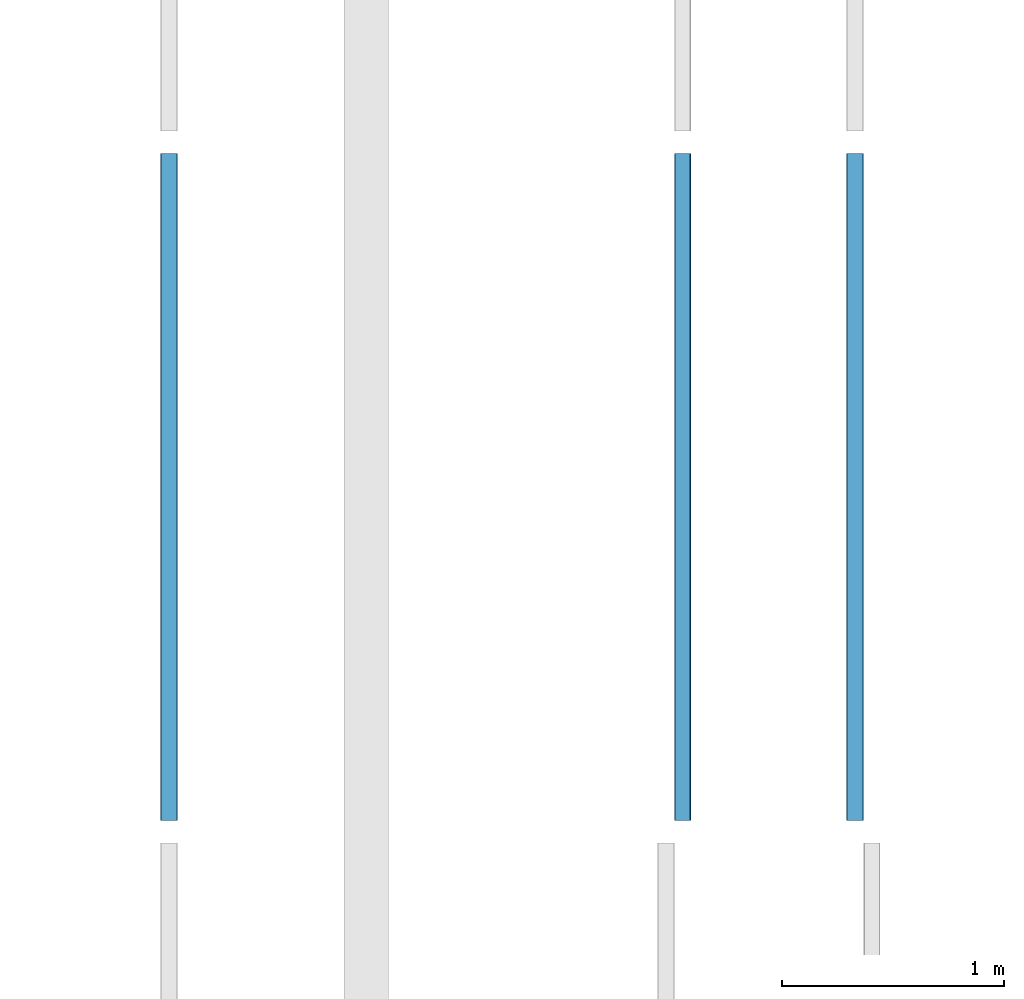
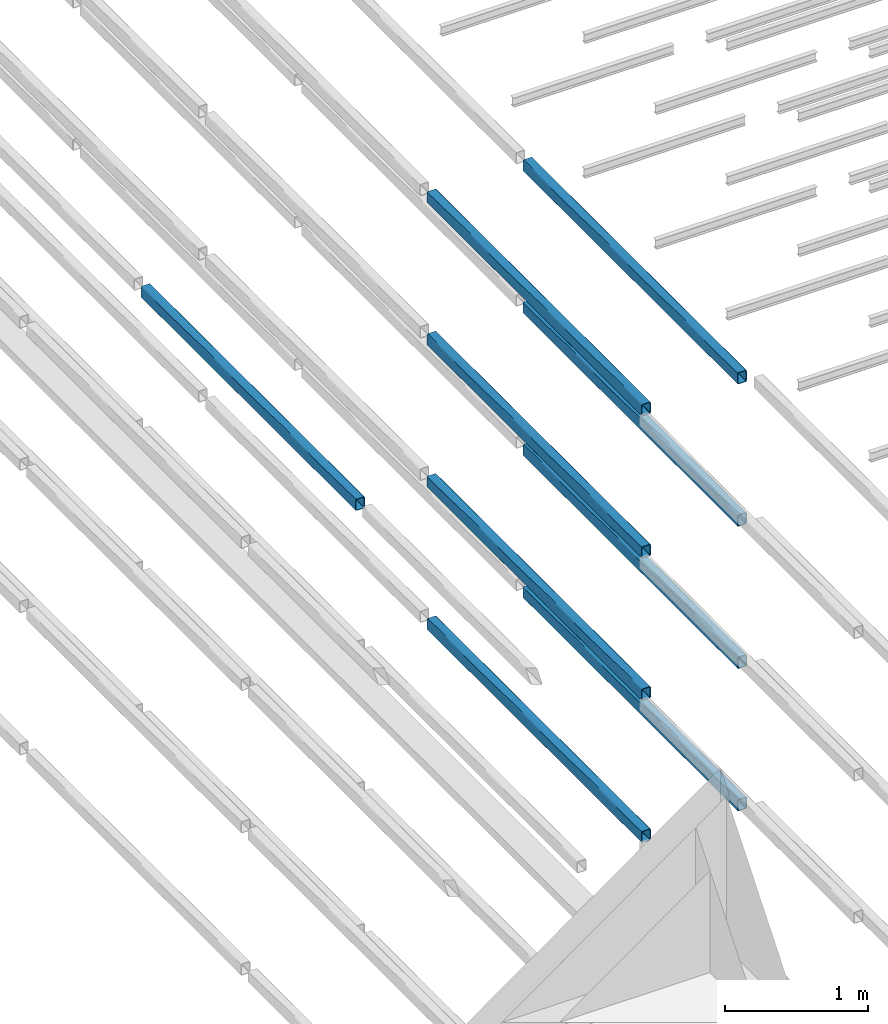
# One storey, part 35 of 290: 9 beams.
"""IFC2X3 building model written with IfcOpenShell, lengths in metres."""

from ifc_helpers import new_model, entity, si_unit, converted_unit, derived_unit, direction, frame, frame_2d, origin, place, context, subcontext, project, spatial, polyline, circle_curve, parameter, trimmed, segment, composite_curve, outline, extrude, material, type_object, element, save


model = new_model("IFC2X3")

# Units and contexts
model_context = context("Model", 3, precision=1e-05, world=origin(), true_north=direction((6.12303176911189e-17, 1.0)))
body_context = subcontext(model_context, "Body", "Model", "MODEL_VIEW")
ifc_project = project(units=[si_unit("LENGTHUNIT", "METRE"), si_unit("AREAUNIT", "SQUARE_METRE"), si_unit("VOLUMEUNIT", "CUBIC_METRE"), converted_unit("PLANEANGLEUNIT", "DEGREE", entity("IfcRatioMeasure", 0.0174532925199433), si_unit("PLANEANGLEUNIT", "RADIAN"), dimensions=[0, 0, 0, 0, 0, 0, 0]), si_unit("MASSUNIT", "GRAM", prefix="KILO"), derived_unit("MASSDENSITYUNIT", [(si_unit("MASSUNIT", "GRAM", prefix="KILO"), 1), (si_unit("LENGTHUNIT", "METRE"), -3)]), derived_unit("MOMENTOFINERTIAUNIT", [(si_unit("LENGTHUNIT", "METRE"), 4)]), si_unit("TIMEUNIT", "SECOND"), si_unit("FREQUENCYUNIT", "HERTZ"), si_unit("THERMODYNAMICTEMPERATUREUNIT", "DEGREE_CELSIUS"), derived_unit("THERMALTRANSMITTANCEUNIT", [(si_unit("MASSUNIT", "GRAM", prefix="KILO"), 1), (si_unit("THERMODYNAMICTEMPERATUREUNIT", "KELVIN"), -1), (si_unit("TIMEUNIT", "SECOND"), -3)]), derived_unit("VOLUMETRICFLOWRATEUNIT", [(si_unit("LENGTHUNIT", "METRE"), 3), (si_unit("TIMEUNIT", "SECOND"), -1)]), si_unit("ELECTRICCURRENTUNIT", "AMPERE"), si_unit("ELECTRICVOLTAGEUNIT", "VOLT"), si_unit("POWERUNIT", "WATT"), si_unit("FORCEUNIT", "NEWTON", prefix="KILO"), si_unit("ILLUMINANCEUNIT", "LUX"), si_unit("LUMINOUSFLUXUNIT", "LUMEN"), si_unit("LUMINOUSINTENSITYUNIT", "CANDELA"), derived_unit("USERDEFINED", [(si_unit("MASSUNIT", "GRAM", prefix="KILO"), -1), (si_unit("LENGTHUNIT", "METRE"), -2), (si_unit("TIMEUNIT", "SECOND"), 3), (si_unit("LUMINOUSFLUXUNIT", "LUMEN"), 1)]), derived_unit("LINEARVELOCITYUNIT", [(si_unit("LENGTHUNIT", "METRE"), 1), (si_unit("TIMEUNIT", "SECOND"), -1)]), si_unit("PRESSUREUNIT", "PASCAL"), derived_unit("USERDEFINED", [(si_unit("LENGTHUNIT", "METRE"), -2), (si_unit("MASSUNIT", "GRAM", prefix="KILO"), 1), (si_unit("TIMEUNIT", "SECOND"), -2)]), derived_unit("LINEARFORCEUNIT", [(si_unit("MASSUNIT", "GRAM", prefix="KILO"), 1), (si_unit("LENGTHUNIT", "METRE"), 1), (si_unit("TIMEUNIT", "SECOND"), -2), (si_unit("LENGTHUNIT", "METRE"), -1)]), derived_unit("PLANARFORCEUNIT", [(si_unit("MASSUNIT", "GRAM", prefix="KILO"), 1), (si_unit("LENGTHUNIT", "METRE"), 1), (si_unit("TIMEUNIT", "SECOND"), -2), (si_unit("LENGTHUNIT", "METRE"), -2)])], contexts=[model_context])

# Site, building, storey
site_placement = place(None, origin())
site = spatial("IfcSite", under=ifc_project, at=site_placement, Name="Default", CompositionType="ELEMENT")
building_placement = place(site_placement, origin())
building = spatial("IfcBuilding", under=site, at=building_placement, CompositionType="ELEMENT")
storey_placement = place(building_placement, frame((0.0, 0.0, 4.0)))
storey = spatial("IfcBuildingStorey", under=building, at=storey_placement, Name="01_OG", CompositionType="ELEMENT", Elevation=4.0)

# Beams
ifc_material = material(Name="Metall - Baustahl S235 blau")
beam_type = type_object("IfcBeamType", Name="RHS Träger (EN 10219-2):RHS 100 x 75 x 5", PredefinedType="NOTDEFINED")
beam_1_placement = place(storey_placement, frame((-178.465111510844, 27.148088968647, 2.445), z_axis=(0.0, 0.0, 1.0), x_axis=(0.0, 1.0, 0.0)))
element("IfcBeam", 1, at=beam_1_placement, inside=storey, type_object=beam_type, material=ifc_material, Name="RHS Träger (EN 10219-2):RHS 100 x 75 x 5", ObjectType="RHS Träger (EN 10219-2):RHS 100 x 75 x 5", context=body_context, shape_type="SweptSolid", body=[
    extrude(outline(composite_curve([segment(polyline([(-0.0399999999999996, -0.0374999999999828), (0.0399999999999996, -0.0374999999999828)]), True, "CONTINUOUS"), segment(trimmed(circle_curve(frame_2d((0.0399999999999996, -0.0274999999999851), x_axis=(0.0, 1.0)), 0.01), [parameter(180.0)], [parameter(270.0)], True, "PARAMETER"), True, "CONTINUOUS"), segment(polyline([(0.0500000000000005, -0.0274999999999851), (0.0500000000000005, 0.0274999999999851)]), True, "CONTINUOUS"), segment(trimmed(circle_curve(frame_2d((0.0399999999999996, 0.0274999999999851), x_axis=(0.0, 1.0)), 0.01), [parameter(270.0)], [parameter(4.07110999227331e-13)], True, "PARAMETER"), True, "CONTINUOUS"), segment(polyline([(0.0399999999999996, 0.0375000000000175), (-0.0399999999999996, 0.0375000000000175)]), True, "CONTINUOUS"), segment(trimmed(circle_curve(frame_2d((-0.0399999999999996, 0.0274999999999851), x_axis=(0.0, 1.0)), 0.01), [parameter(360.0)], [parameter(90.0000000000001)], True, "PARAMETER"), True, "CONTINUOUS"), segment(polyline([(-0.0499999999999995, 0.0274999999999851), (-0.0499999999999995, -0.0274999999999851)]), True, "CONTINUOUS"), segment(trimmed(circle_curve(frame_2d((-0.0399999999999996, -0.0274999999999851), x_axis=(0.0, 1.0)), 0.01), [parameter(90.0000000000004)], [parameter(180.0)], True, "PARAMETER"), True, "CONTINUOUS")], self_intersect=False), holes=[composite_curve([segment(trimmed(circle_curve(frame_2d((-0.0400000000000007, 0.0274999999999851), x_axis=(0.0, 1.0)), 0.005), [parameter(360.0)], [parameter(89.9999999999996)], True, "PARAMETER"), False, "CONTINUOUS"), segment(polyline([(-0.0400000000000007, 0.0325000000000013), (0.0399999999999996, 0.0325000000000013)]), True, "CONTINUOUS"), segment(trimmed(circle_curve(frame_2d((0.0399999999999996, 0.0274999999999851), x_axis=(0.0, 1.0)), 0.005), [parameter(270.0)], [parameter(0.0)], True, "PARAMETER"), False, "CONTINUOUS"), segment(polyline([(0.0449999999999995, 0.0274999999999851), (0.0449999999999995, -0.0274999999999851)]), True, "CONTINUOUS"), segment(trimmed(circle_curve(frame_2d((0.0399999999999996, -0.0274999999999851), x_axis=(0.0, 1.0)), 0.005), [parameter(180.0)], [parameter(269.999999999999)], True, "PARAMETER"), False, "CONTINUOUS"), segment(polyline([(0.0399999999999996, -0.0325000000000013), (-0.0400000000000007, -0.0325000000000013)]), True, "CONTINUOUS"), segment(trimmed(circle_curve(frame_2d((-0.0400000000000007, -0.0274999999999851), x_axis=(0.0, 1.0)), 0.005), [parameter(90.0000000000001)], [parameter(180.0)], True, "PARAMETER"), False, "CONTINUOUS"), segment(polyline([(-0.0450000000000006, -0.0274999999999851), (-0.0450000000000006, 0.0274999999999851)]), True, "CONTINUOUS")], self_intersect=False)]), frame((9.99999999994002e-05, -0.0375000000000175, -0.0500000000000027), z_axis=(1.0, 0.0, 0.0), x_axis=(0.0, 0.0, -1.0)), (0.0, 0.0, 1.0), 2.9998),
])
beam_2_placement = place(storey_placement, frame((-175.305111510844, 27.148088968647, -1.2), z_axis=(0.0, 0.0, 1.0), x_axis=(0.0, 1.0, 0.0)))
element("IfcBeam", 2, at=beam_2_placement, inside=storey, type_object=beam_type, material=ifc_material, Name="RHS Träger (EN 10219-2):RHS 100 x 75 x 5", ObjectType="RHS Träger (EN 10219-2):RHS 100 x 75 x 5", context=body_context, shape_type="SweptSolid", body=[
    extrude(outline(composite_curve([segment(trimmed(circle_curve(frame_2d((-0.0274999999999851, -0.0400000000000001), x_axis=(1.0, 0.0)), 0.01), [parameter(180.0)], [parameter(270.0)], True, "PARAMETER"), True, "CONTINUOUS"), segment(polyline([(-0.0274999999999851, -0.05), (0.0274999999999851, -0.05)]), True, "CONTINUOUS"), segment(trimmed(circle_curve(frame_2d((0.0274999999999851, -0.0400000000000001), x_axis=(1.0, 0.0)), 0.01), [parameter(270.0)], [parameter(5.08888749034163e-14)], True, "PARAMETER"), True, "CONTINUOUS"), segment(polyline([(0.0375000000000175, -0.0400000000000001), (0.0375000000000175, 0.0400000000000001)]), True, "CONTINUOUS"), segment(trimmed(circle_curve(frame_2d((0.0274999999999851, 0.0400000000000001), x_axis=(1.0, 0.0)), 0.01), [parameter(360.0)], [parameter(89.9999999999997)], True, "PARAMETER"), True, "CONTINUOUS"), segment(polyline([(0.0274999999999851, 0.05), (-0.0274999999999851, 0.05)]), True, "CONTINUOUS"), segment(trimmed(circle_curve(frame_2d((-0.0274999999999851, 0.0400000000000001), x_axis=(1.0, 0.0)), 0.01), [parameter(90.0000000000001)], [parameter(180.0)], True, "PARAMETER"), True, "CONTINUOUS"), segment(polyline([(-0.0374999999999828, 0.0400000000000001), (-0.0374999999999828, -0.0400000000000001)]), True, "CONTINUOUS")], self_intersect=False), holes=[composite_curve([segment(polyline([(0.0274999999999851, -0.0450000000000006), (-0.0274999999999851, -0.0450000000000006)]), True, "CONTINUOUS"), segment(trimmed(circle_curve(frame_2d((-0.0274999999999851, -0.0400000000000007), x_axis=(1.0, 0.0)), 0.005), [parameter(180.0)], [parameter(270.0)], True, "PARAMETER"), False, "CONTINUOUS"), segment(polyline([(-0.0325000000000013, -0.0400000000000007), (-0.0325000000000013, 0.039999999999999)]), True, "CONTINUOUS"), segment(trimmed(circle_curve(frame_2d((-0.0274999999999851, 0.039999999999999), x_axis=(1.0, 0.0)), 0.005), [parameter(90.0000000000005)], [parameter(180.0)], True, "PARAMETER"), False, "CONTINUOUS"), segment(polyline([(-0.0274999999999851, 0.044999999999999), (0.0274999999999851, 0.044999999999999)]), True, "CONTINUOUS"), segment(trimmed(circle_curve(frame_2d((0.0274999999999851, 0.039999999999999), x_axis=(1.0, 0.0)), 0.005), [parameter(0.0)], [parameter(90.0000000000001)], True, "PARAMETER"), False, "CONTINUOUS"), segment(polyline([(0.0325000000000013, 0.039999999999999), (0.0325000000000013, -0.0400000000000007)]), True, "CONTINUOUS"), segment(trimmed(circle_curve(frame_2d((0.0274999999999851, -0.0400000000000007), x_axis=(1.0, 0.0)), 0.005), [parameter(270.0)], [parameter(4.07110999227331e-13)], True, "PARAMETER"), False, "CONTINUOUS")], self_intersect=False)]), frame((9.99999999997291e-05, 0.0375000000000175, -0.0500000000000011), z_axis=(1.0, 0.0, 0.0), x_axis=(0.0, -1.0, 0.0)), (0.0, 0.0, 1.0), 2.9998),
])
beam_3_placement = place(storey_placement, frame((-175.305111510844, 27.148088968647, 0.0150000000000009), z_axis=(0.0, 0.0, 1.0), x_axis=(0.0, 1.0, 0.0)))
element("IfcBeam", 3, at=beam_3_placement, inside=storey, type_object=beam_type, material=ifc_material, Name="RHS Träger (EN 10219-2):RHS 100 x 75 x 5", ObjectType="RHS Träger (EN 10219-2):RHS 100 x 75 x 5", context=body_context, shape_type="SweptSolid", body=[
    extrude(outline(composite_curve([segment(trimmed(circle_curve(frame_2d((-0.0274999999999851, -0.0400000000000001), x_axis=(1.0, 0.0)), 0.01), [parameter(180.0)], [parameter(270.0)], True, "PARAMETER"), True, "CONTINUOUS"), segment(polyline([(-0.0274999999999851, -0.05), (0.0274999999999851, -0.05)]), True, "CONTINUOUS"), segment(trimmed(circle_curve(frame_2d((0.0274999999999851, -0.0400000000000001), x_axis=(1.0, 0.0)), 0.01), [parameter(270.0)], [parameter(5.08888749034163e-14)], True, "PARAMETER"), True, "CONTINUOUS"), segment(polyline([(0.0375000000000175, -0.0400000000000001), (0.0375000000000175, 0.0400000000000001)]), True, "CONTINUOUS"), segment(trimmed(circle_curve(frame_2d((0.0274999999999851, 0.0400000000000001), x_axis=(1.0, 0.0)), 0.01), [parameter(360.0)], [parameter(89.9999999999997)], True, "PARAMETER"), True, "CONTINUOUS"), segment(polyline([(0.0274999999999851, 0.05), (-0.0274999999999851, 0.05)]), True, "CONTINUOUS"), segment(trimmed(circle_curve(frame_2d((-0.0274999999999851, 0.0400000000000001), x_axis=(1.0, 0.0)), 0.01), [parameter(90.0000000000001)], [parameter(180.0)], True, "PARAMETER"), True, "CONTINUOUS"), segment(polyline([(-0.0374999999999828, 0.0400000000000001), (-0.0374999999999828, -0.0400000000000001)]), True, "CONTINUOUS")], self_intersect=False), holes=[composite_curve([segment(polyline([(0.0274999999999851, -0.0450000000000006), (-0.0274999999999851, -0.0450000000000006)]), True, "CONTINUOUS"), segment(trimmed(circle_curve(frame_2d((-0.0274999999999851, -0.0400000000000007), x_axis=(1.0, 0.0)), 0.005), [parameter(180.0)], [parameter(270.0)], True, "PARAMETER"), False, "CONTINUOUS"), segment(polyline([(-0.0325000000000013, -0.0400000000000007), (-0.0325000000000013, 0.039999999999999)]), True, "CONTINUOUS"), segment(trimmed(circle_curve(frame_2d((-0.0274999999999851, 0.039999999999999), x_axis=(1.0, 0.0)), 0.005), [parameter(90.0000000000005)], [parameter(180.0)], True, "PARAMETER"), False, "CONTINUOUS"), segment(polyline([(-0.0274999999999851, 0.044999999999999), (0.0274999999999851, 0.044999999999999)]), True, "CONTINUOUS"), segment(trimmed(circle_curve(frame_2d((0.0274999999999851, 0.039999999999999), x_axis=(1.0, 0.0)), 0.005), [parameter(0.0)], [parameter(90.0000000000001)], True, "PARAMETER"), False, "CONTINUOUS"), segment(polyline([(0.0325000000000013, 0.039999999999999), (0.0325000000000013, -0.0400000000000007)]), True, "CONTINUOUS"), segment(trimmed(circle_curve(frame_2d((0.0274999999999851, -0.0400000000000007), x_axis=(1.0, 0.0)), 0.005), [parameter(270.0)], [parameter(4.07110999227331e-13)], True, "PARAMETER"), False, "CONTINUOUS")], self_intersect=False)]), frame((9.99999999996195e-05, 0.0375000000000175, -0.0500000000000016), z_axis=(1.0, 0.0, 0.0), x_axis=(0.0, -1.0, 0.0)), (0.0, 0.0, 1.0), 2.9998),
])
beam_4_placement = place(storey_placement, frame((-175.305111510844, 27.148088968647, 1.23), z_axis=(0.0, 0.0, 1.0), x_axis=(0.0, 1.0, 0.0)))
element("IfcBeam", 4, at=beam_4_placement, inside=storey, type_object=beam_type, material=ifc_material, Name="RHS Träger (EN 10219-2):RHS 100 x 75 x 5", ObjectType="RHS Träger (EN 10219-2):RHS 100 x 75 x 5", context=body_context, shape_type="SweptSolid", body=[
    extrude(outline(composite_curve([segment(trimmed(circle_curve(frame_2d((-0.0274999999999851, -0.0399999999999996), x_axis=(1.0, 0.0)), 0.01), [parameter(180.0)], [parameter(270.0)], True, "PARAMETER"), True, "CONTINUOUS"), segment(polyline([(-0.0274999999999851, -0.0499999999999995), (0.0274999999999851, -0.0499999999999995)]), True, "CONTINUOUS"), segment(trimmed(circle_curve(frame_2d((0.0274999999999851, -0.0399999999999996), x_axis=(1.0, 0.0)), 0.01), [parameter(270.0)], [parameter(5.08888749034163e-14)], True, "PARAMETER"), True, "CONTINUOUS"), segment(polyline([(0.0375000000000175, -0.0399999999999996), (0.0375000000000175, 0.0399999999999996)]), True, "CONTINUOUS"), segment(trimmed(circle_curve(frame_2d((0.0274999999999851, 0.0399999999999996), x_axis=(1.0, 0.0)), 0.01), [parameter(360.0)], [parameter(89.9999999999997)], True, "PARAMETER"), True, "CONTINUOUS"), segment(polyline([(0.0274999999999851, 0.0500000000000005), (-0.0274999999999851, 0.0500000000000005)]), True, "CONTINUOUS"), segment(trimmed(circle_curve(frame_2d((-0.0274999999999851, 0.0399999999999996), x_axis=(1.0, 0.0)), 0.01), [parameter(90.0000000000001)], [parameter(180.0)], True, "PARAMETER"), True, "CONTINUOUS"), segment(polyline([(-0.0374999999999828, 0.0399999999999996), (-0.0374999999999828, -0.0399999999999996)]), True, "CONTINUOUS")], self_intersect=False), holes=[composite_curve([segment(polyline([(0.0274999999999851, -0.0450000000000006), (-0.0274999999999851, -0.0450000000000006)]), True, "CONTINUOUS"), segment(trimmed(circle_curve(frame_2d((-0.0274999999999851, -0.0400000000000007), x_axis=(1.0, 0.0)), 0.005), [parameter(180.0)], [parameter(270.0)], True, "PARAMETER"), False, "CONTINUOUS"), segment(polyline([(-0.0325000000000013, -0.0400000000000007), (-0.0325000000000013, 0.0399999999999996)]), True, "CONTINUOUS"), segment(trimmed(circle_curve(frame_2d((-0.0274999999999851, 0.0399999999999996), x_axis=(1.0, 0.0)), 0.005), [parameter(90.0000000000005)], [parameter(180.0)], True, "PARAMETER"), False, "CONTINUOUS"), segment(polyline([(-0.0274999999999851, 0.0449999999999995), (0.0274999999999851, 0.0449999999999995)]), True, "CONTINUOUS"), segment(trimmed(circle_curve(frame_2d((0.0274999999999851, 0.0399999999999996), x_axis=(1.0, 0.0)), 0.005), [parameter(0.0)], [parameter(90.0000000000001)], True, "PARAMETER"), False, "CONTINUOUS"), segment(polyline([(0.0325000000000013, 0.0399999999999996), (0.0325000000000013, -0.0400000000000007)]), True, "CONTINUOUS"), segment(trimmed(circle_curve(frame_2d((0.0274999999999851, -0.0400000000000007), x_axis=(1.0, 0.0)), 0.005), [parameter(270.0)], [parameter(4.07110999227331e-13)], True, "PARAMETER"), False, "CONTINUOUS")], self_intersect=False)]), frame((9.99999999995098e-05, 0.0375000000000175, -0.0500000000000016), z_axis=(1.0, 0.0, 0.0), x_axis=(0.0, -1.0, 0.0)), (0.0, 0.0, 1.0), 2.9998),
])
beam_5_placement = place(storey_placement, frame((-175.305111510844, 27.148088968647, 2.445), z_axis=(0.0, 0.0, 1.0), x_axis=(0.0, 1.0, 0.0)))
element("IfcBeam", 5, at=beam_5_placement, inside=storey, type_object=beam_type, material=ifc_material, Name="RHS Träger (EN 10219-2):RHS 100 x 75 x 5", ObjectType="RHS Träger (EN 10219-2):RHS 100 x 75 x 5", context=body_context, shape_type="SweptSolid", body=[
    extrude(outline(composite_curve([segment(trimmed(circle_curve(frame_2d((-0.0274999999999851, -0.0399999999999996), x_axis=(1.0, 0.0)), 0.01), [parameter(180.0)], [parameter(270.0)], True, "PARAMETER"), True, "CONTINUOUS"), segment(polyline([(-0.0274999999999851, -0.0499999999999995), (0.0274999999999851, -0.0499999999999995)]), True, "CONTINUOUS"), segment(trimmed(circle_curve(frame_2d((0.0274999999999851, -0.0399999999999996), x_axis=(1.0, 0.0)), 0.01), [parameter(270.0)], [parameter(5.08888749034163e-14)], True, "PARAMETER"), True, "CONTINUOUS"), segment(polyline([(0.0375000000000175, -0.0399999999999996), (0.0375000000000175, 0.0399999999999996)]), True, "CONTINUOUS"), segment(trimmed(circle_curve(frame_2d((0.0274999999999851, 0.0399999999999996), x_axis=(1.0, 0.0)), 0.01), [parameter(360.0)], [parameter(89.9999999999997)], True, "PARAMETER"), True, "CONTINUOUS"), segment(polyline([(0.0274999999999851, 0.0500000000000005), (-0.0274999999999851, 0.0500000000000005)]), True, "CONTINUOUS"), segment(trimmed(circle_curve(frame_2d((-0.0274999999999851, 0.0399999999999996), x_axis=(1.0, 0.0)), 0.01), [parameter(90.0000000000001)], [parameter(180.0)], True, "PARAMETER"), True, "CONTINUOUS"), segment(polyline([(-0.0374999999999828, 0.0399999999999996), (-0.0374999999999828, -0.0399999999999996)]), True, "CONTINUOUS")], self_intersect=False), holes=[composite_curve([segment(polyline([(0.0274999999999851, -0.0450000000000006), (-0.0274999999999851, -0.0450000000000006)]), True, "CONTINUOUS"), segment(trimmed(circle_curve(frame_2d((-0.0274999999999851, -0.0400000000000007), x_axis=(1.0, 0.0)), 0.005), [parameter(180.0)], [parameter(270.0)], True, "PARAMETER"), False, "CONTINUOUS"), segment(polyline([(-0.0325000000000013, -0.0400000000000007), (-0.0325000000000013, 0.0399999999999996)]), True, "CONTINUOUS"), segment(trimmed(circle_curve(frame_2d((-0.0274999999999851, 0.0399999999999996), x_axis=(1.0, 0.0)), 0.005), [parameter(90.0000000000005)], [parameter(180.0)], True, "PARAMETER"), False, "CONTINUOUS"), segment(polyline([(-0.0274999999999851, 0.0449999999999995), (0.0274999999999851, 0.0449999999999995)]), True, "CONTINUOUS"), segment(trimmed(circle_curve(frame_2d((0.0274999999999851, 0.0399999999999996), x_axis=(1.0, 0.0)), 0.005), [parameter(0.0)], [parameter(90.0000000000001)], True, "PARAMETER"), False, "CONTINUOUS"), segment(polyline([(0.0325000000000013, 0.0399999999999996), (0.0325000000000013, -0.0400000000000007)]), True, "CONTINUOUS"), segment(trimmed(circle_curve(frame_2d((0.0274999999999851, -0.0400000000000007), x_axis=(1.0, 0.0)), 0.005), [parameter(270.0)], [parameter(4.07110999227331e-13)], True, "PARAMETER"), False, "CONTINUOUS")], self_intersect=False)]), frame((9.99999999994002e-05, 0.0375000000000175, -0.0500000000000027), z_axis=(1.0, 0.0, 0.0), x_axis=(0.0, -1.0, 0.0)), (0.0, 0.0, 1.0), 2.9998),
])
beam_6_placement = place(storey_placement, frame((-176.155111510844, 27.148088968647, -1.2), z_axis=(0.0, 0.0, 1.0), x_axis=(0.0, 1.0, 0.0)))
element("IfcBeam", 6, at=beam_6_placement, inside=storey, type_object=beam_type, material=ifc_material, Name="RHS Träger (EN 10219-2):RHS 100 x 75 x 5", ObjectType="RHS Träger (EN 10219-2):RHS 100 x 75 x 5", context=body_context, shape_type="SweptSolid", body=[
    extrude(outline(composite_curve([segment(polyline([(-0.0400000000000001, -0.0374999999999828), (0.0400000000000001, -0.0374999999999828)]), True, "CONTINUOUS"), segment(trimmed(circle_curve(frame_2d((0.0400000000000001, -0.0274999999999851), x_axis=(0.0, 1.0)), 0.01), [parameter(180.0)], [parameter(270.0)], True, "PARAMETER"), True, "CONTINUOUS"), segment(polyline([(0.05, -0.0274999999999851), (0.05, 0.0274999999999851)]), True, "CONTINUOUS"), segment(trimmed(circle_curve(frame_2d((0.0400000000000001, 0.0274999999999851), x_axis=(0.0, 1.0)), 0.01), [parameter(270.0)], [parameter(4.07110999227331e-13)], True, "PARAMETER"), True, "CONTINUOUS"), segment(polyline([(0.0400000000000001, 0.0375000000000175), (-0.0400000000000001, 0.0375000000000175)]), True, "CONTINUOUS"), segment(trimmed(circle_curve(frame_2d((-0.0400000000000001, 0.0274999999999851), x_axis=(0.0, 1.0)), 0.01), [parameter(360.0)], [parameter(90.0000000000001)], True, "PARAMETER"), True, "CONTINUOUS"), segment(polyline([(-0.05, 0.0274999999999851), (-0.05, -0.0274999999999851)]), True, "CONTINUOUS"), segment(trimmed(circle_curve(frame_2d((-0.0400000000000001, -0.0274999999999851), x_axis=(0.0, 1.0)), 0.01), [parameter(90.0000000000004)], [parameter(180.0)], True, "PARAMETER"), True, "CONTINUOUS")], self_intersect=False), holes=[composite_curve([segment(trimmed(circle_curve(frame_2d((-0.0400000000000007, 0.0274999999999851), x_axis=(0.0, 1.0)), 0.005), [parameter(360.0)], [parameter(89.9999999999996)], True, "PARAMETER"), False, "CONTINUOUS"), segment(polyline([(-0.0400000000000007, 0.0325000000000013), (0.039999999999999, 0.0325000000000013)]), True, "CONTINUOUS"), segment(trimmed(circle_curve(frame_2d((0.039999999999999, 0.0274999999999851), x_axis=(0.0, 1.0)), 0.005), [parameter(270.0)], [parameter(0.0)], True, "PARAMETER"), False, "CONTINUOUS"), segment(polyline([(0.044999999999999, 0.0274999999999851), (0.044999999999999, -0.0274999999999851)]), True, "CONTINUOUS"), segment(trimmed(circle_curve(frame_2d((0.039999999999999, -0.0274999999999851), x_axis=(0.0, 1.0)), 0.005), [parameter(180.0)], [parameter(269.999999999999)], True, "PARAMETER"), False, "CONTINUOUS"), segment(polyline([(0.039999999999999, -0.0325000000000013), (-0.0400000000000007, -0.0325000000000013)]), True, "CONTINUOUS"), segment(trimmed(circle_curve(frame_2d((-0.0400000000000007, -0.0274999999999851), x_axis=(0.0, 1.0)), 0.005), [parameter(90.0000000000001)], [parameter(180.0)], True, "PARAMETER"), False, "CONTINUOUS"), segment(polyline([(-0.0450000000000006, -0.0274999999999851), (-0.0450000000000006, 0.0274999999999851)]), True, "CONTINUOUS")], self_intersect=False)]), frame((9.99999999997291e-05, -0.0375000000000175, -0.0500000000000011), z_axis=(1.0, 0.0, 0.0), x_axis=(0.0, 0.0, -1.0)), (0.0, 0.0, 1.0), 2.9998),
])
beam_7_placement = place(storey_placement, frame((-176.155111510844, 27.148088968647, 0.0150000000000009), z_axis=(0.0, 0.0, 1.0), x_axis=(0.0, 1.0, 0.0)))
element("IfcBeam", 7, at=beam_7_placement, inside=storey, type_object=beam_type, material=ifc_material, Name="RHS Träger (EN 10219-2):RHS 100 x 75 x 5", ObjectType="RHS Träger (EN 10219-2):RHS 100 x 75 x 5", context=body_context, shape_type="SweptSolid", body=[
    extrude(outline(composite_curve([segment(polyline([(-0.0400000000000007, -0.0374999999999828), (0.0399999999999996, -0.0374999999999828)]), True, "CONTINUOUS"), segment(trimmed(circle_curve(frame_2d((0.0399999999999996, -0.0274999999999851), x_axis=(0.0, 1.0)), 0.01), [parameter(180.0)], [parameter(270.0)], True, "PARAMETER"), True, "CONTINUOUS"), segment(polyline([(0.0499999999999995, -0.0274999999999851), (0.0499999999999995, 0.0274999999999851)]), True, "CONTINUOUS"), segment(trimmed(circle_curve(frame_2d((0.0399999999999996, 0.0274999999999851), x_axis=(0.0, 1.0)), 0.01), [parameter(270.0)], [parameter(4.07110999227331e-13)], True, "PARAMETER"), True, "CONTINUOUS"), segment(polyline([(0.0399999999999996, 0.0375000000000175), (-0.0400000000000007, 0.0375000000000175)]), True, "CONTINUOUS"), segment(trimmed(circle_curve(frame_2d((-0.0400000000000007, 0.0274999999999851), x_axis=(0.0, 1.0)), 0.01), [parameter(360.0)], [parameter(90.0000000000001)], True, "PARAMETER"), True, "CONTINUOUS"), segment(polyline([(-0.0500000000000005, 0.0274999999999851), (-0.0500000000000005, -0.0274999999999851)]), True, "CONTINUOUS"), segment(trimmed(circle_curve(frame_2d((-0.0400000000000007, -0.0274999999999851), x_axis=(0.0, 1.0)), 0.01), [parameter(90.0000000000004)], [parameter(180.0)], True, "PARAMETER"), True, "CONTINUOUS")], self_intersect=False), holes=[composite_curve([segment(trimmed(circle_curve(frame_2d((-0.0400000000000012, 0.0274999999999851), x_axis=(0.0, 1.0)), 0.005), [parameter(360.0)], [parameter(89.9999999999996)], True, "PARAMETER"), False, "CONTINUOUS"), segment(polyline([(-0.0400000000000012, 0.0325000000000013), (0.0399999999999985, 0.0325000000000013)]), True, "CONTINUOUS"), segment(trimmed(circle_curve(frame_2d((0.0399999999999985, 0.0274999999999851), x_axis=(0.0, 1.0)), 0.005), [parameter(270.0)], [parameter(0.0)], True, "PARAMETER"), False, "CONTINUOUS"), segment(polyline([(0.0449999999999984, 0.0274999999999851), (0.0449999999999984, -0.0274999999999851)]), True, "CONTINUOUS"), segment(trimmed(circle_curve(frame_2d((0.0399999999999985, -0.0274999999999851), x_axis=(0.0, 1.0)), 0.005), [parameter(180.0)], [parameter(269.999999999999)], True, "PARAMETER"), False, "CONTINUOUS"), segment(polyline([(0.0399999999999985, -0.0325000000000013), (-0.0400000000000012, -0.0325000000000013)]), True, "CONTINUOUS"), segment(trimmed(circle_curve(frame_2d((-0.0400000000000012, -0.0274999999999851), x_axis=(0.0, 1.0)), 0.005), [parameter(90.0000000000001)], [parameter(180.0)], True, "PARAMETER"), False, "CONTINUOUS"), segment(polyline([(-0.0450000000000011, -0.0274999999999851), (-0.0450000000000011, 0.0274999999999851)]), True, "CONTINUOUS")], self_intersect=False)]), frame((9.99999999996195e-05, -0.0375000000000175, -0.0500000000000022), z_axis=(1.0, 0.0, 0.0), x_axis=(0.0, 0.0, -1.0)), (0.0, 0.0, 1.0), 2.9998),
])
beam_8_placement = place(storey_placement, frame((-176.155111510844, 27.148088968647, 1.23), z_axis=(0.0, 0.0, 1.0), x_axis=(0.0, 1.0, 0.0)))
element("IfcBeam", 8, at=beam_8_placement, inside=storey, type_object=beam_type, material=ifc_material, Name="RHS Träger (EN 10219-2):RHS 100 x 75 x 5", ObjectType="RHS Träger (EN 10219-2):RHS 100 x 75 x 5", context=body_context, shape_type="SweptSolid", body=[
    extrude(outline(composite_curve([segment(polyline([(-0.0399999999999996, -0.0374999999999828), (0.0399999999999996, -0.0374999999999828)]), True, "CONTINUOUS"), segment(trimmed(circle_curve(frame_2d((0.0399999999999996, -0.0274999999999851), x_axis=(0.0, 1.0)), 0.01), [parameter(180.0)], [parameter(270.0)], True, "PARAMETER"), True, "CONTINUOUS"), segment(polyline([(0.0500000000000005, -0.0274999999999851), (0.0500000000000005, 0.0274999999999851)]), True, "CONTINUOUS"), segment(trimmed(circle_curve(frame_2d((0.0399999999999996, 0.0274999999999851), x_axis=(0.0, 1.0)), 0.01), [parameter(270.0)], [parameter(4.07110999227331e-13)], True, "PARAMETER"), True, "CONTINUOUS"), segment(polyline([(0.0399999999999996, 0.0375000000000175), (-0.0399999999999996, 0.0375000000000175)]), True, "CONTINUOUS"), segment(trimmed(circle_curve(frame_2d((-0.0399999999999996, 0.0274999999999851), x_axis=(0.0, 1.0)), 0.01), [parameter(360.0)], [parameter(90.0000000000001)], True, "PARAMETER"), True, "CONTINUOUS"), segment(polyline([(-0.0499999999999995, 0.0274999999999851), (-0.0499999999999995, -0.0274999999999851)]), True, "CONTINUOUS"), segment(trimmed(circle_curve(frame_2d((-0.0399999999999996, -0.0274999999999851), x_axis=(0.0, 1.0)), 0.01), [parameter(90.0000000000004)], [parameter(180.0)], True, "PARAMETER"), True, "CONTINUOUS")], self_intersect=False), holes=[composite_curve([segment(trimmed(circle_curve(frame_2d((-0.0400000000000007, 0.0274999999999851), x_axis=(0.0, 1.0)), 0.005), [parameter(360.0)], [parameter(89.9999999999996)], True, "PARAMETER"), False, "CONTINUOUS"), segment(polyline([(-0.0400000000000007, 0.0325000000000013), (0.0399999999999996, 0.0325000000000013)]), True, "CONTINUOUS"), segment(trimmed(circle_curve(frame_2d((0.0399999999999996, 0.0274999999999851), x_axis=(0.0, 1.0)), 0.005), [parameter(270.0)], [parameter(0.0)], True, "PARAMETER"), False, "CONTINUOUS"), segment(polyline([(0.0449999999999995, 0.0274999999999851), (0.0449999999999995, -0.0274999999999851)]), True, "CONTINUOUS"), segment(trimmed(circle_curve(frame_2d((0.0399999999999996, -0.0274999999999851), x_axis=(0.0, 1.0)), 0.005), [parameter(180.0)], [parameter(269.999999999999)], True, "PARAMETER"), False, "CONTINUOUS"), segment(polyline([(0.0399999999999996, -0.0325000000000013), (-0.0400000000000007, -0.0325000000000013)]), True, "CONTINUOUS"), segment(trimmed(circle_curve(frame_2d((-0.0400000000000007, -0.0274999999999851), x_axis=(0.0, 1.0)), 0.005), [parameter(90.0000000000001)], [parameter(180.0)], True, "PARAMETER"), False, "CONTINUOUS"), segment(polyline([(-0.0450000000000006, -0.0274999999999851), (-0.0450000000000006, 0.0274999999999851)]), True, "CONTINUOUS")], self_intersect=False)]), frame((9.99999999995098e-05, -0.0375000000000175, -0.0500000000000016), z_axis=(1.0, 0.0, 0.0), x_axis=(0.0, 0.0, -1.0)), (0.0, 0.0, 1.0), 2.9998),
])
beam_9_placement = place(storey_placement, frame((-176.155111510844, 27.148088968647, 2.445), z_axis=(0.0, 0.0, 1.0), x_axis=(0.0, 1.0, 0.0)))
element("IfcBeam", 9, at=beam_9_placement, inside=storey, type_object=beam_type, material=ifc_material, Name="RHS Träger (EN 10219-2):RHS 100 x 75 x 5", ObjectType="RHS Träger (EN 10219-2):RHS 100 x 75 x 5", context=body_context, shape_type="SweptSolid", body=[
    extrude(outline(composite_curve([segment(polyline([(-0.0399999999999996, -0.0374999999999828), (0.0399999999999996, -0.0374999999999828)]), True, "CONTINUOUS"), segment(trimmed(circle_curve(frame_2d((0.0399999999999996, -0.0274999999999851), x_axis=(0.0, 1.0)), 0.01), [parameter(180.0)], [parameter(270.0)], True, "PARAMETER"), True, "CONTINUOUS"), segment(polyline([(0.0500000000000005, -0.0274999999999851), (0.0500000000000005, 0.0274999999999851)]), True, "CONTINUOUS"), segment(trimmed(circle_curve(frame_2d((0.0399999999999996, 0.0274999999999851), x_axis=(0.0, 1.0)), 0.01), [parameter(270.0)], [parameter(4.07110999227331e-13)], True, "PARAMETER"), True, "CONTINUOUS"), segment(polyline([(0.0399999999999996, 0.0375000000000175), (-0.0399999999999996, 0.0375000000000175)]), True, "CONTINUOUS"), segment(trimmed(circle_curve(frame_2d((-0.0399999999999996, 0.0274999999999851), x_axis=(0.0, 1.0)), 0.01), [parameter(360.0)], [parameter(90.0000000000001)], True, "PARAMETER"), True, "CONTINUOUS"), segment(polyline([(-0.0499999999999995, 0.0274999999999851), (-0.0499999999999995, -0.0274999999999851)]), True, "CONTINUOUS"), segment(trimmed(circle_curve(frame_2d((-0.0399999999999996, -0.0274999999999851), x_axis=(0.0, 1.0)), 0.01), [parameter(90.0000000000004)], [parameter(180.0)], True, "PARAMETER"), True, "CONTINUOUS")], self_intersect=False), holes=[composite_curve([segment(trimmed(circle_curve(frame_2d((-0.0400000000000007, 0.0274999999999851), x_axis=(0.0, 1.0)), 0.005), [parameter(360.0)], [parameter(89.9999999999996)], True, "PARAMETER"), False, "CONTINUOUS"), segment(polyline([(-0.0400000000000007, 0.0325000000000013), (0.0399999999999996, 0.0325000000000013)]), True, "CONTINUOUS"), segment(trimmed(circle_curve(frame_2d((0.0399999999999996, 0.0274999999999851), x_axis=(0.0, 1.0)), 0.005), [parameter(270.0)], [parameter(0.0)], True, "PARAMETER"), False, "CONTINUOUS"), segment(polyline([(0.0449999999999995, 0.0274999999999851), (0.0449999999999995, -0.0274999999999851)]), True, "CONTINUOUS"), segment(trimmed(circle_curve(frame_2d((0.0399999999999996, -0.0274999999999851), x_axis=(0.0, 1.0)), 0.005), [parameter(180.0)], [parameter(269.999999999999)], True, "PARAMETER"), False, "CONTINUOUS"), segment(polyline([(0.0399999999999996, -0.0325000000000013), (-0.0400000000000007, -0.0325000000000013)]), True, "CONTINUOUS"), segment(trimmed(circle_curve(frame_2d((-0.0400000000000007, -0.0274999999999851), x_axis=(0.0, 1.0)), 0.005), [parameter(90.0000000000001)], [parameter(180.0)], True, "PARAMETER"), False, "CONTINUOUS"), segment(polyline([(-0.0450000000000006, -0.0274999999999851), (-0.0450000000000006, 0.0274999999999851)]), True, "CONTINUOUS")], self_intersect=False)]), frame((9.99999999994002e-05, -0.0375000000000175, -0.0500000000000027), z_axis=(1.0, 0.0, 0.0), x_axis=(0.0, 0.0, -1.0)), (0.0, 0.0, 1.0), 2.9998),
])

save(model, "model.ifc")
